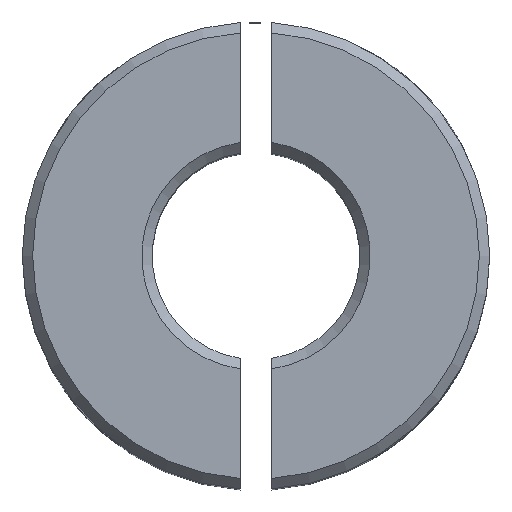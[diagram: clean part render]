
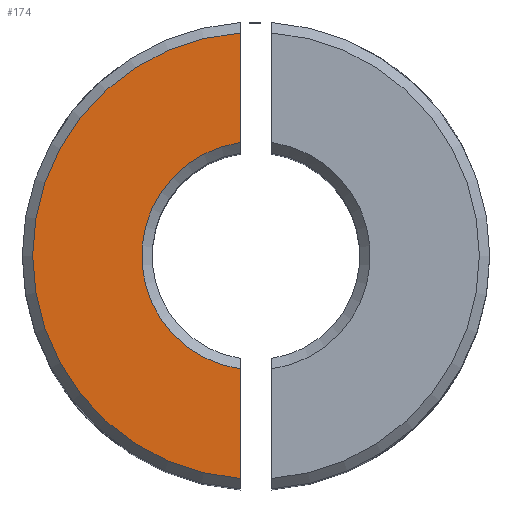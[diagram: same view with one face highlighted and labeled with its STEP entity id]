
A CAD part, top view. The second image highlights one B-rep face of the part: STEP entity #174.
In plain terms, the highlighted planar face has unit normal (0, 0, 1).
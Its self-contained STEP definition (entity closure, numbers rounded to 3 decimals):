
#174 = ADVANCED_FACE( '', ( #392 ), #393, .F. );
#392 = FACE_OUTER_BOUND( '', #643, .T. );
#393 = PLANE( '', #644 );
#643 = EDGE_LOOP( '', ( #1007, #1008, #1009, #1010 ) );
#644 = AXIS2_PLACEMENT_3D( '', #1011, #1012, #1013 );
#1007 = ORIENTED_EDGE( '', *, *, #1276, .F. );
#1008 = ORIENTED_EDGE( '', *, *, #1277, .T. );
#1009 = ORIENTED_EDGE( '', *, *, #1252, .F. );
#1010 = ORIENTED_EDGE( '', *, *, #1278, .T. );
#1011 = CARTESIAN_POINT( '', ( 0., 0., 0. ) );
#1012 = DIRECTION( '', ( 0., 0., -1. ) );
#1013 = DIRECTION( '', ( -1., 0., 0. ) );
#1252 = EDGE_CURVE( '', #1481, #1482, #1483, .T. );
#1276 = EDGE_CURVE( '', #1513, #1514, #1515, .T. );
#1277 = EDGE_CURVE( '', #1513, #1482, #1516, .T. );
#1278 = EDGE_CURVE( '', #1481, #1514, #1517, .F. );
#1481 = VERTEX_POINT( '', #2575 );
#1482 = VERTEX_POINT( '', #2576 );
#1483 = LINE( '', #2577, #2578 );
#1513 = VERTEX_POINT( '', #2706 );
#1514 = VERTEX_POINT( '', #2707 );
#1515 = LINE( '', #2708, #2709 );
#1516 = CIRCLE( '', #2710, 11. );
#1517 = CIRCLE( '', #2711, 21.5 );
#2575 = CARTESIAN_POINT( '', ( -1.5, 21.448, 0. ) );
#2576 = CARTESIAN_POINT( '', ( -1.5, 10.897, 0. ) );
#2577 = CARTESIAN_POINT( '', ( -1.5, 0., 0. ) );
#2578 = VECTOR( '', #3041, 1000. );
#2706 = CARTESIAN_POINT( '', ( -1.5, -10.897, 0. ) );
#2707 = CARTESIAN_POINT( '', ( -1.5, -21.448, 0. ) );
#2708 = CARTESIAN_POINT( '', ( -1.5, 0., 0. ) );
#2709 = VECTOR( '', #3061, 1000. );
#2710 = AXIS2_PLACEMENT_3D( '', #3062, #3063, #3064 );
#2711 = AXIS2_PLACEMENT_3D( '', #3065, #3066, #3067 );
#3041 = DIRECTION( '', ( 0., -1., 0. ) );
#3061 = DIRECTION( '', ( 0., -1., 0. ) );
#3062 = CARTESIAN_POINT( '', ( 0., 0., 0. ) );
#3063 = DIRECTION( '', ( 0., 0., -1. ) );
#3064 = DIRECTION( '', ( -1., 0., 0. ) );
#3065 = CARTESIAN_POINT( '', ( 0., 0., 0. ) );
#3066 = DIRECTION( '', ( 0., 0., -1. ) );
#3067 = DIRECTION( '', ( -1., 0., 0. ) );
